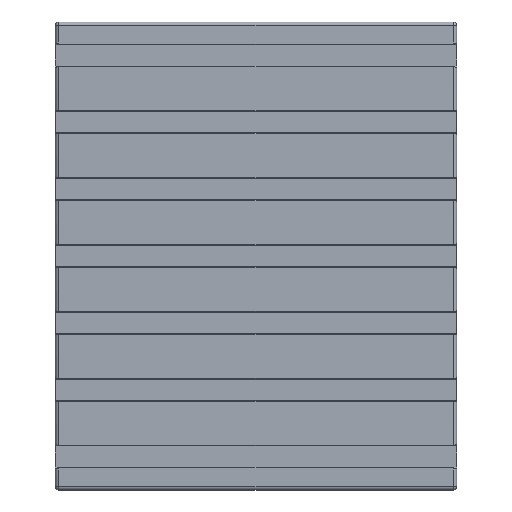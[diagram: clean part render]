
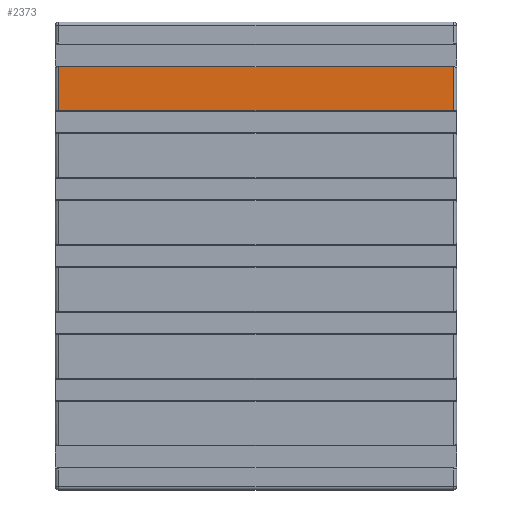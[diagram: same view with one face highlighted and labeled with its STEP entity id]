
A CAD part, front view. The second image highlights one B-rep face of the part: STEP entity #2373.
In plain terms, the highlighted planar face has unit normal (0, -1, 0).
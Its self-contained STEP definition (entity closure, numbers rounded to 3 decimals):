
#53=PLANE('',#2522);
#143=FACE_OUTER_BOUND('',#273,.T.);
#273=EDGE_LOOP('',(#1703,#1704,#1705,#1706));
#457=LINE('',#3565,#741);
#458=LINE('',#3569,#742);
#459=LINE('',#3571,#743);
#460=LINE('',#3572,#744);
#741=VECTOR('',#2823,10.);
#742=VECTOR('',#2828,10.);
#743=VECTOR('',#2829,10.);
#744=VECTOR('',#2830,10.);
#1082=VERTEX_POINT('',#3562);
#1083=VERTEX_POINT('',#3564);
#1084=VERTEX_POINT('',#3568);
#1085=VERTEX_POINT('',#3570);
#1325=EDGE_CURVE('',#1082,#1083,#457,.T.);
#1327=EDGE_CURVE('',#1084,#1082,#458,.T.);
#1328=EDGE_CURVE('',#1085,#1084,#459,.T.);
#1329=EDGE_CURVE('',#1085,#1083,#460,.T.);
#1703=ORIENTED_EDGE('',*,*,#1325,.F.);
#1704=ORIENTED_EDGE('',*,*,#1327,.F.);
#1705=ORIENTED_EDGE('',*,*,#1328,.F.);
#1706=ORIENTED_EDGE('',*,*,#1329,.T.);
#2373=ADVANCED_FACE('',(#143),#53,.T.);
#2522=AXIS2_PLACEMENT_3D('',#3567,#2826,#2827);
#2823=DIRECTION('',(0.,0.,-1.));
#2826=DIRECTION('center_axis',(0.,-1.,0.));
#2827=DIRECTION('ref_axis',(0.,0.,
-1.));
#2828=DIRECTION('',(1.,0.,0.));
#2829=DIRECTION('',(0.,0.,1.));
#2830=DIRECTION('',(1.,0.,0.));
#3562=CARTESIAN_POINT('',(54.5,-6.,63.3));
#3564=CARTESIAN_POINT('',(54.5,-6.,56.7));
#3565=CARTESIAN_POINT('',(54.5,-6.,56.125));
#3567=CARTESIAN_POINT('Origin',(-15.,-6.,57.25));
#3568=CARTESIAN_POINT('',(-4.5,-6.,63.3));
#3569=CARTESIAN_POINT('',(-15.,-6.,63.3));
#3570=CARTESIAN_POINT('',(-4.5,-6.,56.7));
#3571=CARTESIAN_POINT('',(-4.5,-6.,46.125));
#3572=CARTESIAN_POINT('',(-15.,-6.,56.7));
